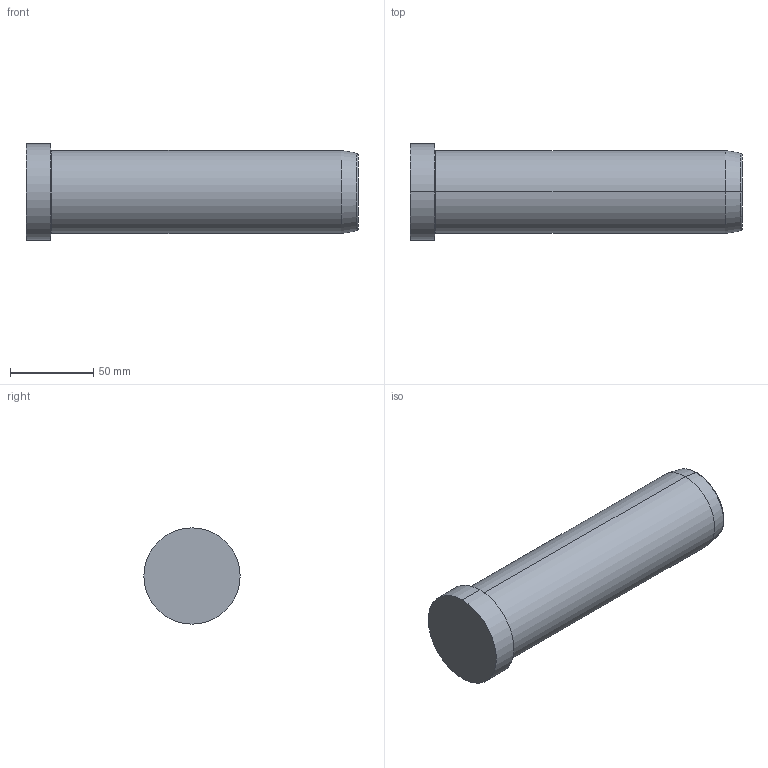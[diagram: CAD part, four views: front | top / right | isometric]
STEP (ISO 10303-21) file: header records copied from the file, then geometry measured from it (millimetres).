
FILE_DESCRIPTION( ( 'STEP AP203' ), '1' );
FILE_NAME( 'D:/Delta 3 D/D01D/50/D01D - 50x200.step', '2003-01-02T23:40:21', ( ' ' ), ( ' ' ), 'XStep 1.0', ' ', ' ' );
FILE_SCHEMA( ( 'CONFIG_CONTROL_DESIGN' ) );
Length unit declared in the file: metre
Products named in the file (1): 1
Bounding box: 200 x 58 x 58 mm (x, y, z)
Volume: 401485.5 mm3; surface area: 36813.7 mm2
Topology: 1 solids, 1 shells, 14 faces, 26 edges, 16 vertices
Faces by surface type: revolution 8, bspline 6
Entity records: 437 total; most frequent: CARTESIAN_POINT 121, ORIENTED_EDGE 52, DIRECTION 50, EDGE_CURVE 26, AXIS2_PLACEMENT_3D 17, EDGE_LOOP 16, VERTEX_POINT 16, CIRCLE 16
